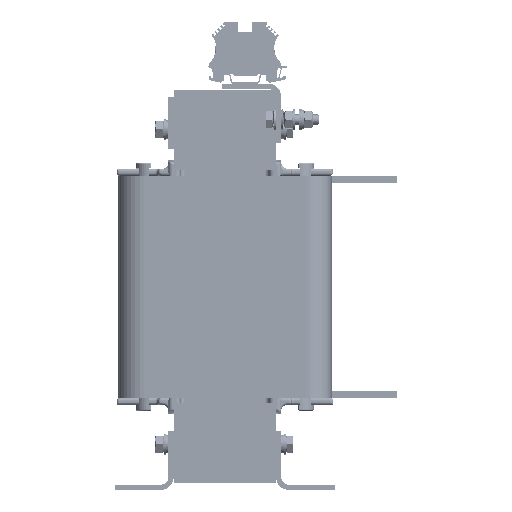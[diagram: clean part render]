
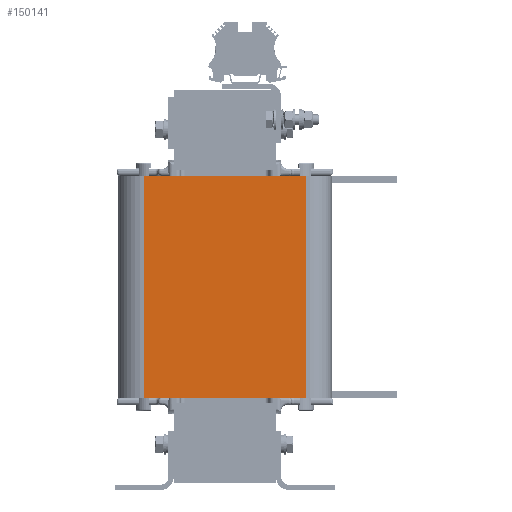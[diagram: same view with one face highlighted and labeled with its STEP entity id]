
A CAD part, left-side view. The second image highlights one B-rep face of the part: STEP entity #150141.
In plain terms, the highlighted planar face has unit normal (-1, 0, 0).
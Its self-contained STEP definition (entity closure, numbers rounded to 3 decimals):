
#147262=CARTESIAN_POINT('',(-191.213,61.55,84.5));
#147263=VERTEX_POINT('',#147262);
#147273=CARTESIAN_POINT('',(-191.213,-61.55,84.5));
#147274=VERTEX_POINT('',#147273);
#147275=CARTESIAN_POINT('',(-191.213,-61.55,84.5));
#147276=DIRECTION('',(0.0,1.0,0.0));
#147277=VECTOR('',#147276,123.1);
#147278=LINE('',#147275,#147277);
#147279=EDGE_CURVE('',#147274,#147263,#147278,.T.);
#148369=CARTESIAN_POINT('',(-191.213,-61.55,-84.5));
#148370=VERTEX_POINT('',#148369);
#148378=CARTESIAN_POINT('',(-191.213,61.55,-84.5));
#148379=VERTEX_POINT('',#148378);
#148380=CARTESIAN_POINT('',(-191.213,61.55,-84.5));
#148381=DIRECTION('',(0.0,-1.0,0.0));
#148382=VECTOR('',#148381,123.1);
#148383=LINE('',#148380,#148382);
#148384=EDGE_CURVE('',#148379,#148370,#148383,.T.);
#150036=CARTESIAN_POINT('',(-191.213,-61.55,-84.5));
#150037=DIRECTION('',(0.0,0.0,1.0));
#150038=VECTOR('',#150037,169.);
#150039=LINE('',#150036,#150038);
#150040=EDGE_CURVE('',#148370,#147274,#150039,.T.);
#150119=CARTESIAN_POINT('',(-191.213,61.55,84.5));
#150120=DIRECTION('',(0.0,0.0,-1.0));
#150121=VECTOR('',#150120,169.);
#150122=LINE('',#150119,#150121);
#150123=EDGE_CURVE('',#147263,#148379,#150122,.T.);
#150130=CARTESIAN_POINT('',(-191.213,61.55,0.0));
#150131=DIRECTION('',(-1.0,0.0,0.0));
#150132=DIRECTION('',(0.0,0.0,-1.0));
#150133=AXIS2_PLACEMENT_3D('',#150130,#150131,#150132);
#150134=PLANE('',#150133);
#150135=ORIENTED_EDGE('',*,*,#148384,.T.);
#150136=ORIENTED_EDGE('',*,*,#150040,.T.);
#150137=ORIENTED_EDGE('',*,*,#147279,.T.);
#150138=ORIENTED_EDGE('',*,*,#150123,.T.);
#150139=EDGE_LOOP('',(#150135,#150136,#150137,#150138));
#150140=FACE_OUTER_BOUND('',#150139,.T.);
#150141=ADVANCED_FACE('',(#150140),#150134,.T.);
